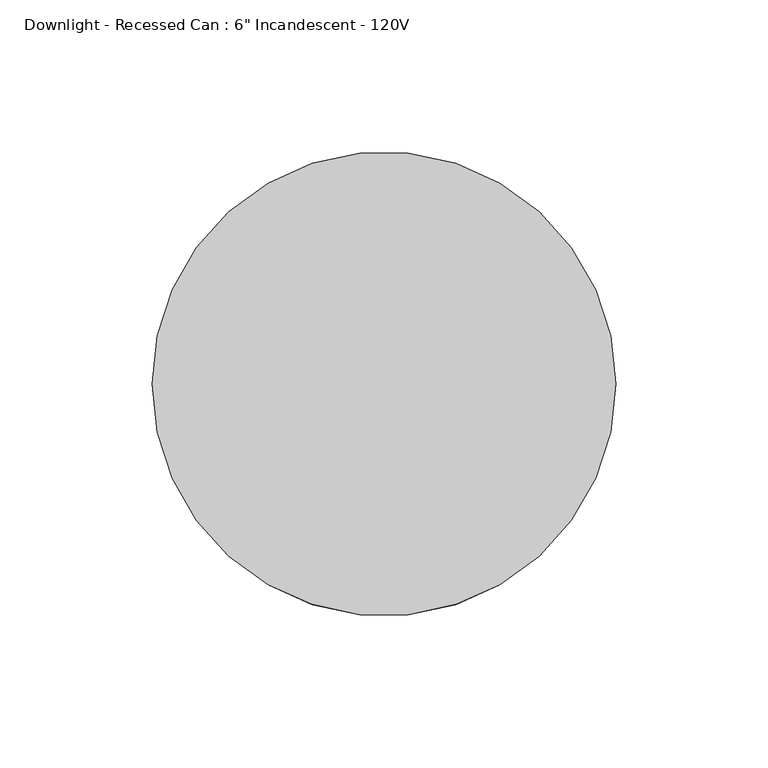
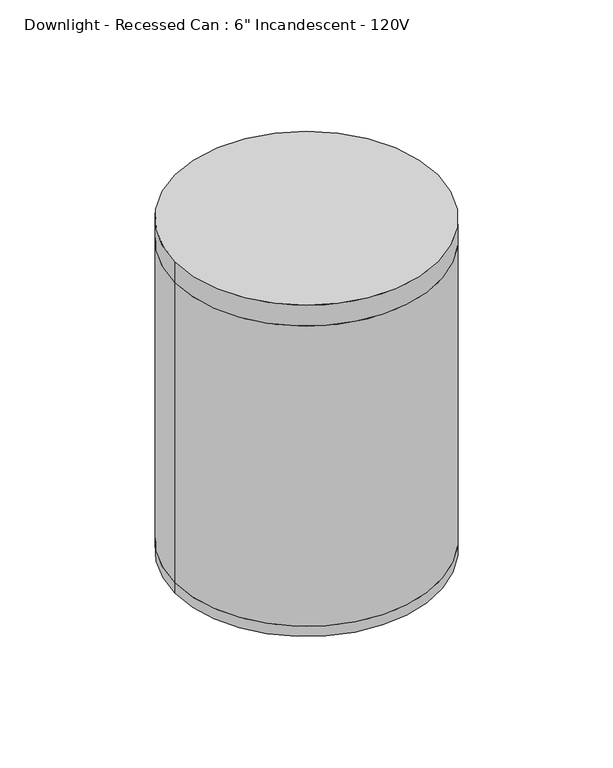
"""IFC4 building model written with IfcOpenShell, lengths in millimetres: light fixture geometry."""

import ifcopenshell
import ifcopenshell.guid

model = None  # the IFC model being written
_history = None  # IfcOwnerHistory: only IFC2X3 demands one
_inside = {}  # id of a spatial element -> (the spatial element, [elements in it])
_under = {}  # id of a project, library or spatial element -> (it, [spatial elements below it])
_declared = {}  # id of a project -> (the project, [libraries it declares])
_typed = {}  # id of a type object -> (the type object, [elements of that type])
_made_of = {}  # id of a material, layer set ... -> (it, [elements and type objects made of it])


def new_model(schema):
    """Start an empty IFC model of exactly this schema.

    Asked for "IFC4X3", IfcOpenShell would pick the latest addendum, in which some entities
    have other attributes; the version numbers below select the first issue.
    IFC2X3 requires an IfcOwnerHistory on every rooted entity: one is made here for all.
    """
    global model, _history
    if schema == "IFC4X3":
        model = ifcopenshell.file(schema_version=(4, 3, 0, 0))
    else:
        model = ifcopenshell.file(schema=schema)
    _inside.clear()
    _under.clear()
    _declared.clear()
    _typed.clear()
    _made_of.clear()
    _history = None
    if model.schema == "IFC2X3":
        org = make("IfcOrganization", Name="unknown")
        user = make(
            "IfcPersonAndOrganization",
            ThePerson=make("IfcPerson", FamilyName="unknown"),
            TheOrganization=org,
        )
        app = make(
            "IfcApplication",
            ApplicationDeveloper=org,
            Version="unknown",
            ApplicationFullName="unknown",
            ApplicationIdentifier="unknown",
        )
        _history = make(
            "IfcOwnerHistory",
            OwningUser=user,
            OwningApplication=app,
            ChangeAction="ADDED",
            CreationDate=0,
        )
    return model


def make(cls, **values):
    """One entity of the class cls with the attributes given. An attribute that is None is left unset."""
    return model.create_entity(
        cls, **{name: value for name, value in values.items() if value is not None}
    )


def rooted(cls, **values):
    """An entity with a GlobalId (a new one), such as an element, a storey or a relation."""
    return make(cls, GlobalId=ifcopenshell.guid.new(), OwnerHistory=_history, **values)


def si_unit(unit_type, name, prefix=None):
    """IfcSIUnit, for example si_unit("LENGTHUNIT", "METRE", prefix="MILLI")."""
    return make("IfcSIUnit", UnitType=unit_type, Prefix=prefix, Name=name)


def assignment(units):
    """IfcUnitAssignment: the units of a project."""
    return None if units is None else make("IfcUnitAssignment", Units=units)


def point(xyz):
    """IfcCartesianPoint."""
    return None if xyz is None else make("IfcCartesianPoint", Coordinates=xyz)


def direction(xyz):
    """IfcDirection."""
    return None if xyz is None else make("IfcDirection", DirectionRatios=xyz)


def frame(location, z_axis=None, x_axis=None):
    """IfcAxis2Placement3D, a coordinate frame: its origin and axes. An axis left out is left unset."""
    return make(
        "IfcAxis2Placement3D",
        Location=point(location),
        Axis=direction(z_axis),
        RefDirection=direction(x_axis),
    )


def frame_2d(location, x_axis=None):
    """IfcAxis2Placement2D, a coordinate frame in the plane: its origin and x axis."""
    return make(
        "IfcAxis2Placement2D", Location=point(location), RefDirection=direction(x_axis)
    )


def origin():
    """The frame at (0, 0, 0) with its axes left unset."""
    return frame((0.0, 0.0, 0.0))


def origin_2d():
    """The frame at (0, 0) in the plane with its x axis left unset."""
    return frame_2d((0.0, 0.0))


def place(relative_to, where):
    """IfcLocalPlacement: puts the frame where relative to a parent placement (None: the world)."""
    return make(
        "IfcLocalPlacement", PlacementRelTo=relative_to, RelativePlacement=where
    )


def context(
    kind, dimensions, precision=None, world=None, true_north=None, identifier=None
):
    """IfcGeometricRepresentationContext, for example the 3D "Model" context."""
    return make(
        "IfcGeometricRepresentationContext",
        ContextIdentifier=identifier,
        ContextType=kind,
        CoordinateSpaceDimension=dimensions,
        Precision=precision,
        WorldCoordinateSystem=world,
        TrueNorth=true_north,
    )


def project(units=None, contexts=None):
    """IfcProject with its units and contexts."""
    return rooted(
        "IfcProject",
        Name="project",
        RepresentationContexts=contexts,
        UnitsInContext=assignment(units),
    )


def spatial(cls, under=None, at=None, **own):
    """A site, building, storey or space (cls), placed at a placement, below another one or the project."""
    s = rooted(cls, ObjectPlacement=at, **own)
    if under is not None:
        _under.setdefault(under.id(), (under, []))[1].append(s)
    return s


def circle_curve(where, radius):
    """IfcCircle in the frame where."""
    return make("IfcCircle", Position=where, Radius=radius)


def trimmed(basis, trim1, trim2, sense, master):
    """IfcTrimmedCurve: the piece of a basis curve between two trims."""
    return make(
        "IfcTrimmedCurve",
        BasisCurve=basis,
        Trim1=trim1,
        Trim2=trim2,
        SenseAgreement=sense,
        MasterRepresentation=master,
    )


def segment(curve, same_sense, transition):
    """IfcCompositeCurveSegment."""
    return make(
        "IfcCompositeCurveSegment",
        Transition=transition,
        SameSense=same_sense,
        ParentCurve=curve,
    )


def composite_curve(segments, self_intersect=None):
    """IfcCompositeCurve: segments joined end to end."""
    return make("IfcCompositeCurve", Segments=segments, SelfIntersect=self_intersect)


def outline(outer, holes=None, kind="AREA"):
    """IfcArbitraryClosedProfileDef: a profile drawn as a closed curve; with holes, ...WithVoids."""
    if holes is None:
        return make("IfcArbitraryClosedProfileDef", ProfileType=kind, OuterCurve=outer)
    return make(
        "IfcArbitraryProfileDefWithVoids",
        ProfileType=kind,
        OuterCurve=outer,
        InnerCurves=holes,
    )


def extrude(swept, where, along, depth):
    """IfcExtrudedAreaSolid: the profile swept, set in the frame where, extruded along a direction by depth."""
    return make(
        "IfcExtrudedAreaSolid",
        SweptArea=swept,
        Position=where,
        ExtrudedDirection=direction(along),
        Depth=depth,
    )


def shape(context_of_items, identifier, shape_type, items):
    """IfcShapeRepresentation: the items that make up one representation, for example the "Body"."""
    return make(
        "IfcShapeRepresentation",
        ContextOfItems=context_of_items,
        RepresentationIdentifier=identifier,
        RepresentationType=shape_type,
        Items=items,
    )


def source(mapping_origin, context_of_items, identifier, shape_type, items):
    """IfcRepresentationMap: a shape defined once, which mapped items show again and again."""
    return make(
        "IfcRepresentationMap",
        MappingOrigin=mapping_origin,
        MappedRepresentation=shape(context_of_items, identifier, shape_type, items),
    )


def transform(
    local_origin,
    x_axis=None,
    y_axis=None,
    z_axis=None,
    scale=None,
    scale2=None,
    scale3=None,
    uniform=True,
):
    """IfcCartesianTransformationOperator3D, or its non-uniform kind. x_axis, y_axis, z_axis: its Axis1, 2, 3."""
    if uniform:
        return make(
            "IfcCartesianTransformationOperator3D",
            Axis1=direction(x_axis),
            Axis2=direction(y_axis),
            LocalOrigin=point(local_origin),
            Scale=scale,
            Axis3=direction(z_axis),
        )
    return make(
        "IfcCartesianTransformationOperator3DnonUniform",
        Axis1=direction(x_axis),
        Axis2=direction(y_axis),
        LocalOrigin=point(local_origin),
        Scale=scale,
        Axis3=direction(z_axis),
        Scale2=scale2,
        Scale3=scale3,
    )


def mapped(mapping_source, mapping_target):
    """IfcMappedItem: shows the shape of a source again, moved by a transform."""
    return make(
        "IfcMappedItem", MappingSource=mapping_source, MappingTarget=mapping_target
    )


def made_of(thing, what):
    """Note that an element or type object is made of a material, layer set ...; save() writes the relation."""
    if what is not None:
        _made_of.setdefault(what.id(), (what, []))[1].append(thing)
    return thing


def element(
    cls,
    number,
    at=None,
    inside=None,
    cuts=None,
    type_object=None,
    material=None,
    context=None,
    identifier="Body",
    shape_type=None,
    held_by="IfcProductDefinitionShape",
    body=None,
    shapes=None,
    **own,
):
    """One element of the class cls, such as IfcWall. Its Tag is "e" and its number.

    at: its placement. inside: the storey or other place that contains it. cuts: it is an
    opening in that element (IfcRelVoidsElement). A single representation is given by context,
    identifier, shape_type and body (its items); several are given by shapes. held_by: the class
    of the entity that holds the representations. save() writes the other relations.
    """
    e = rooted(cls, Tag="e%d" % number, ObjectPlacement=at, **own)
    if body is not None:
        shapes = [shape(context, identifier, shape_type, body)]
    if shapes is not None:
        e.Representation = make(held_by, Representations=shapes)
    if inside is not None:
        _inside.setdefault(inside.id(), (inside, []))[1].append(e)
    if cuts is not None:
        rooted(
            "IfcRelVoidsElement", RelatingBuildingElement=cuts, RelatedOpeningElement=e
        )
    if type_object is not None:
        _typed.setdefault(type_object.id(), (type_object, []))[1].append(e)
    return made_of(e, material)


def aggregate(whole, parts):
    """IfcRelAggregates: a whole, such as a stair, and the parts it consists of."""
    return rooted("IfcRelAggregates", RelatingObject=whole, RelatedObjects=parts)


def save(model, path):
    """Write the relations noted so far, then the file.

    IfcRelAggregates (storeys below a building ...), IfcRelContainedInSpatialStructure (elements
    in a storey), IfcRelDefinesByType, IfcRelAssociatesMaterial and IfcRelDeclares: one each for
    every whole, place, type object, material and project.
    """
    for whole, parts in _under.values():
        aggregate(whole, parts)
    for where, things in _inside.values():
        rooted(
            "IfcRelContainedInSpatialStructure",
            RelatedElements=things,
            RelatingStructure=where,
        )
    for kind, things in _typed.values():
        rooted("IfcRelDefinesByType", RelatedObjects=things, RelatingType=kind)
    for what, things in _made_of.values():
        rooted("IfcRelAssociatesMaterial", RelatedObjects=things, RelatingMaterial=what)
    for by, libraries in _declared.values():
        rooted("IfcRelDeclares", RelatingContext=by, RelatedDefinitions=libraries)
    model.write(path)


def light_fixture_e8692caf(model_context):
    return source(origin(), model_context, "Body", "SweptSolid", [
        extrude(outline(composite_curve([segment(trimmed(circle_curve(origin_2d(), 76.2), [point((-76.2, 0.0))], [point((76.2, 0.0))], False, "CARTESIAN"), True, "CONTINUOUS"), segment(trimmed(circle_curve(origin_2d(), 76.2), [point((76.2, 0.0))], [point((-76.2, 0.0))], False, "CARTESIAN"), True, "CONTINUOUS")], self_intersect=False)), frame((0.0, 0.0, 2628.9), z_axis=(0.0, 0.0, 1.0), x_axis=(1.0, 0.0, 0.0)), (0.0, 0.0, 1.0), 12.7),
        extrude(outline(composite_curve([segment(trimmed(circle_curve(origin_2d(), 76.2), [point((-76.2, 0.0))], [point((76.2, 0.0))], False, "CARTESIAN"), True, "CONTINUOUS"), segment(trimmed(circle_curve(origin_2d(), 76.2), [point((76.2, 0.0))], [point((-76.2, 0.0))], False, "CARTESIAN"), True, "CONTINUOUS")], self_intersect=False), holes=[composite_curve([segment(trimmed(circle_curve(origin_2d(), 63.5), [point((-63.5, 0.0))], [point((63.5, 0.0))], True, "CARTESIAN"), True, "CONTINUOUS"), segment(trimmed(circle_curve(origin_2d(), 63.5), [point((63.5, 0.0))], [point((-63.5, 0.0))], True, "CARTESIAN"), True, "CONTINUOUS")], self_intersect=False)]), frame((0.0, 0.0, 2444.75), z_axis=(0.0, 0.0, 1.0), x_axis=(1.0, 0.0, 0.0)), (0.0, 0.0, 1.0), 184.15),
        extrude(outline(composite_curve([segment(trimmed(circle_curve(origin_2d(), 76.2), [point((-76.2, 0.0))], [point((76.2, 0.0))], False, "CARTESIAN"), True, "CONTINUOUS"), segment(trimmed(circle_curve(origin_2d(), 76.2), [point((76.2, 0.0))], [point((-76.2, 0.0))], False, "CARTESIAN"), True, "CONTINUOUS")], self_intersect=False)), frame((0.0, 0.0, 2438.4), z_axis=(0.0, 0.0, 1.0), x_axis=(1.0, 0.0, 0.0)), (0.0, 0.0, 1.0), 6.35),
    ])


if __name__ == "__main__":
    model = new_model("IFC4")
    model_context = context("Model", 3, world=origin())
    ifc_project = project(units=[si_unit("LENGTHUNIT", "METRE", prefix="MILLI")], contexts=[model_context])
    site = spatial("IfcSite", under=ifc_project)
    building = spatial("IfcBuilding", under=site)
    placement = place(None, origin())
    light_fixture_shape = light_fixture_e8692caf(model_context)
    element("IfcLightFixture", 1, ObjectType="Downlight - Recessed Can : 6\" Incandescent - 120V", at=placement, inside=building, context=model_context, shape_type="MappedRepresentation", body=[
        mapped(light_fixture_shape, transform((0.0, 0.0, 0.0), x_axis=(1.0, 0.0, 0.0), y_axis=(0.0, 1.0, 0.0), z_axis=(0.0, 0.0, 1.0))),
    ])
    save(model, "model.ifc")
